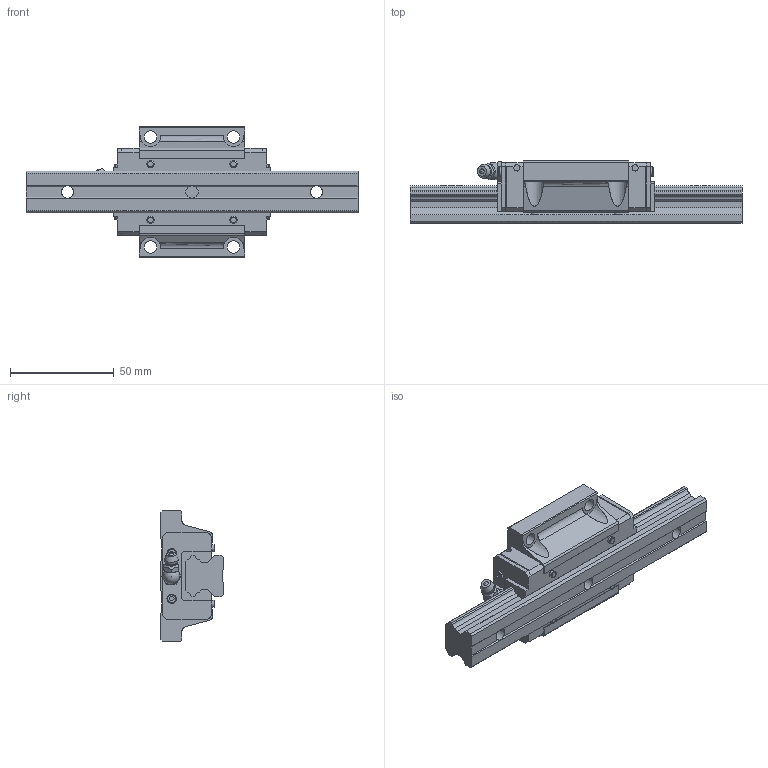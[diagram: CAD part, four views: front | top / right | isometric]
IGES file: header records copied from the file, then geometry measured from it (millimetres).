
Start section: Data from Parasolid IGES Translator 26.0.171, Copyright(c) 2006 Siemens PLM Software. All Rights Reserved.
Global section: file name: HSR20M1B1SS-160L_G20_0_B-M6F_42_0_0_0.igs; native system: By Siemens PLM Incorporated; preprocessor: XPlus GENERIC/IGES 26.0.171; author: Noname; organization: Noname; date: 20240523.061416; units: millimetre
Bounding box: 160 x 30 x 63 mm (x, y, z)
Surface area: 31914.3 mm2 (no closed solid volume)
Topology: 0 solids, 0 shells, 279 faces, 1502 edges, 1440 vertices
Faces by surface type: extrusion 204, revolution 75
